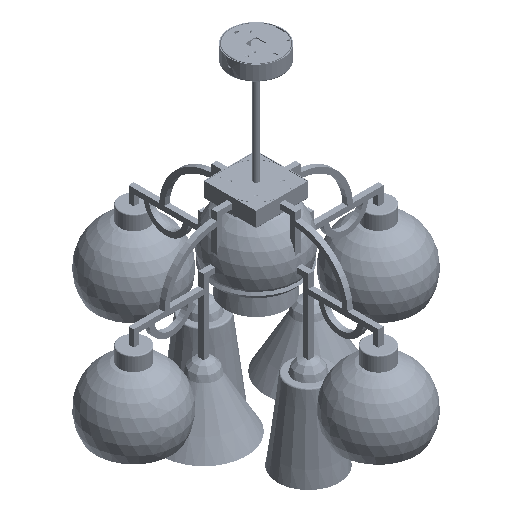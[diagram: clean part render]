
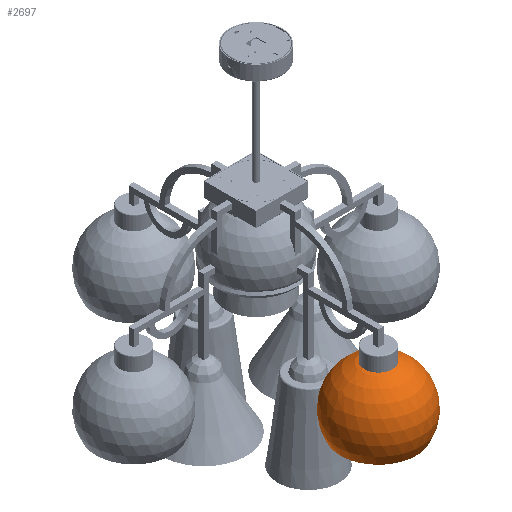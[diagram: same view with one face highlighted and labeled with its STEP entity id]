
A CAD part, isometric view. The second image highlights one B-rep face of the part: STEP entity #2697.
In plain terms, the highlighted spherical face has radius 100 mm.
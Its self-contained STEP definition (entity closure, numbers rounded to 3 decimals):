
#2697 = ADVANCED_FACE( '', ( #4756, #4757 ), #4758, .T. );
#4756 = FACE_OUTER_BOUND( '', #7915, .T. );
#4757 = FACE_OUTER_BOUND( '', #7916, .T. );
#4758 = SPHERICAL_SURFACE( '', #7917, 100. );
#7915 = EDGE_LOOP( '', ( #12445 ) );
#7916 = EDGE_LOOP( '', ( #12446 ) );
#7917 = AXIS2_PLACEMENT_3D( '', #12447, #12448, #12449 );
#12445 = ORIENTED_EDGE( '', *, *, #15672, .F. );
#12446 = ORIENTED_EDGE( '', *, *, #15673, .F. );
#12447 = CARTESIAN_POINT( '', ( 0., 0., -87. ) );
#12448 = DIRECTION( '', ( 0., 0., -1. ) );
#12449 = DIRECTION( '', ( -1., 0., 0. ) );
#15672 = EDGE_CURVE( '', #18205, #18205, #18206, .F. );
#15673 = EDGE_CURVE( '', #18207, #18207, #18208, .T. );
#18205 = VERTEX_POINT( '', #22793 );
#18206 = CIRCLE( '', #22794, 15.5 );
#18207 = VERTEX_POINT( '', #22795 );
#18208 = CIRCLE( '', #22796, 86.603 );
#22793 = CARTESIAN_POINT( '', ( -15.5, 0., 11.791 ) );
#22794 = AXIS2_PLACEMENT_3D( '', #25919, #25920, #25921 );
#22795 = CARTESIAN_POINT( '', ( -86.603, 0., -137. ) );
#22796 = AXIS2_PLACEMENT_3D( '', #25922, #25923, #25924 );
#25919 = CARTESIAN_POINT( '', ( 0., 0., 11.791 ) );
#25920 = DIRECTION( '', ( 0., 0., -1. ) );
#25921 = DIRECTION( '', ( -1., 0., 0. ) );
#25922 = CARTESIAN_POINT( '', ( 0., 0., -137. ) );
#25923 = DIRECTION( '', ( 0., 0., -1. ) );
#25924 = DIRECTION( '', ( -1., 0., 0. ) );
